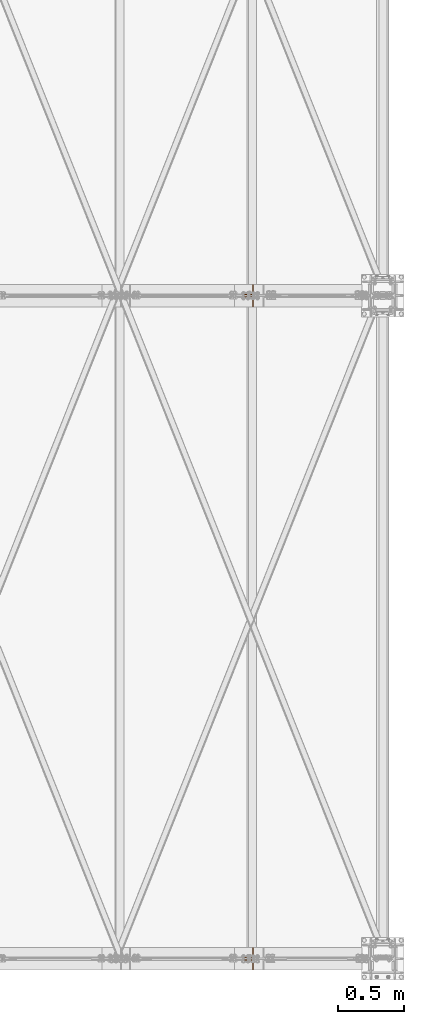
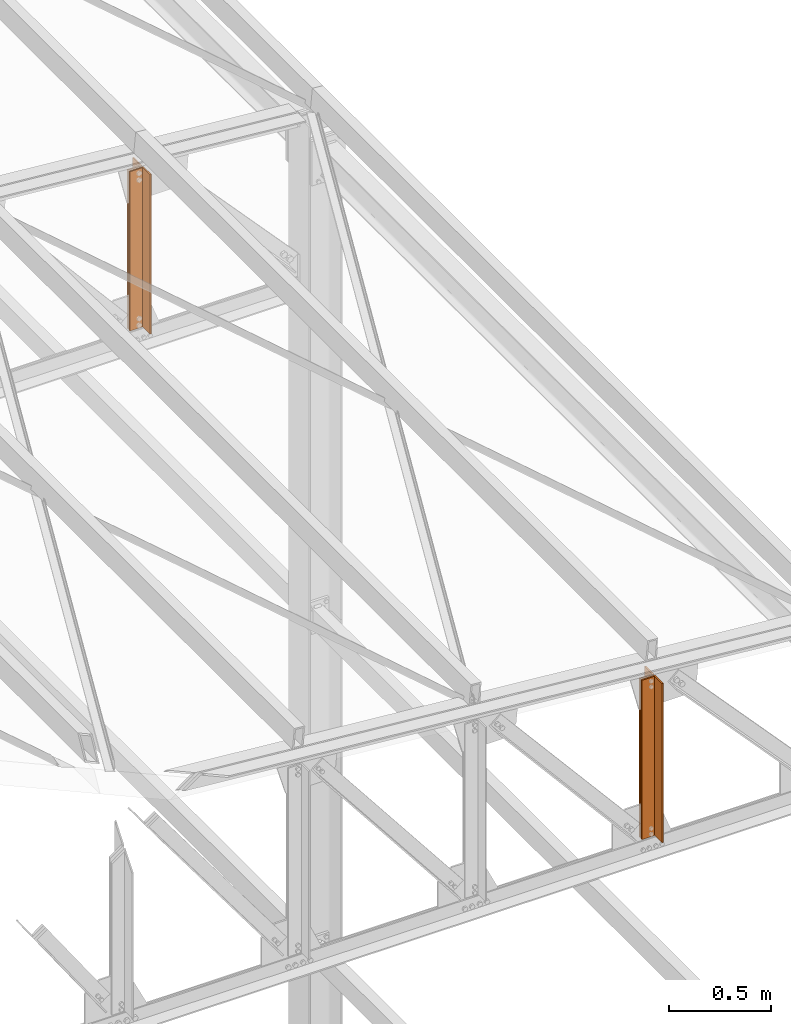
# One storey, part 247 of 251: 4 proxies.
"""IFC4 building model written with IfcOpenShell, lengths in metres."""

import ifcopenshell
import ifcopenshell.guid

model = None  # the IFC model being written
_history = None  # IfcOwnerHistory: only IFC2X3 demands one
_inside = {}  # id of a spatial element -> (the spatial element, [elements in it])
_under = {}  # id of a project, library or spatial element -> (it, [spatial elements below it])
_declared = {}  # id of a project -> (the project, [libraries it declares])
_typed = {}  # id of a type object -> (the type object, [elements of that type])
_made_of = {}  # id of a material, layer set ... -> (it, [elements and type objects made of it])


def new_model(schema):
    """Start an empty IFC model of exactly this schema.

    Asked for "IFC4X3", IfcOpenShell would pick the latest addendum, in which some entities
    have other attributes; the version numbers below select the first issue.
    IFC2X3 requires an IfcOwnerHistory on every rooted entity: one is made here for all.
    """
    global model, _history
    if schema == "IFC4X3":
        model = ifcopenshell.file(schema_version=(4, 3, 0, 0))
    else:
        model = ifcopenshell.file(schema=schema)
    _inside.clear()
    _under.clear()
    _declared.clear()
    _typed.clear()
    _made_of.clear()
    _history = None
    if model.schema == "IFC2X3":
        org = make("IfcOrganization", Name="unknown")
        user = make(
            "IfcPersonAndOrganization",
            ThePerson=make("IfcPerson", FamilyName="unknown"),
            TheOrganization=org,
        )
        app = make(
            "IfcApplication",
            ApplicationDeveloper=org,
            Version="unknown",
            ApplicationFullName="unknown",
            ApplicationIdentifier="unknown",
        )
        _history = make(
            "IfcOwnerHistory",
            OwningUser=user,
            OwningApplication=app,
            ChangeAction="ADDED",
            CreationDate=0,
        )
    return model


def make(cls, **values):
    """One entity of the class cls with the attributes given. An attribute that is None is left unset."""
    return model.create_entity(
        cls, **{name: value for name, value in values.items() if value is not None}
    )


def rooted(cls, **values):
    """An entity with a GlobalId (a new one), such as an element, a storey or a relation."""
    return make(cls, GlobalId=ifcopenshell.guid.new(), OwnerHistory=_history, **values)


def si_unit(unit_type, name, prefix=None):
    """IfcSIUnit, for example si_unit("LENGTHUNIT", "METRE", prefix="MILLI")."""
    return make("IfcSIUnit", UnitType=unit_type, Prefix=prefix, Name=name)


def assignment(units):
    """IfcUnitAssignment: the units of a project."""
    return None if units is None else make("IfcUnitAssignment", Units=units)


def point(xyz):
    """IfcCartesianPoint."""
    return None if xyz is None else make("IfcCartesianPoint", Coordinates=xyz)


def direction(xyz):
    """IfcDirection."""
    return None if xyz is None else make("IfcDirection", DirectionRatios=xyz)


def frame(location, z_axis=None, x_axis=None):
    """IfcAxis2Placement3D, a coordinate frame: its origin and axes. An axis left out is left unset."""
    return make(
        "IfcAxis2Placement3D",
        Location=point(location),
        Axis=direction(z_axis),
        RefDirection=direction(x_axis),
    )


def frame_2d(location, x_axis=None):
    """IfcAxis2Placement2D, a coordinate frame in the plane: its origin and x axis."""
    return make(
        "IfcAxis2Placement2D", Location=point(location), RefDirection=direction(x_axis)
    )


def origin_with_axes():
    """The frame at (0, 0, 0) with the z axis (0, 0, 1) and the x axis (1, 0, 0) written out."""
    return frame((0.0, 0.0, 0.0), z_axis=(0.0, 0.0, 1.0), x_axis=(1.0, 0.0, 0.0))


def origin_2d_with_axis():
    """The frame at (0, 0) in the plane with the x axis (1, 0) written out."""
    return frame_2d((0.0, 0.0), x_axis=(1.0, 0.0))


def place(relative_to, where):
    """IfcLocalPlacement: puts the frame where relative to a parent placement (None: the world)."""
    return make(
        "IfcLocalPlacement", PlacementRelTo=relative_to, RelativePlacement=where
    )


def context(
    kind, dimensions, precision=None, world=None, true_north=None, identifier=None
):
    """IfcGeometricRepresentationContext, for example the 3D "Model" context."""
    return make(
        "IfcGeometricRepresentationContext",
        ContextIdentifier=identifier,
        ContextType=kind,
        CoordinateSpaceDimension=dimensions,
        Precision=precision,
        WorldCoordinateSystem=world,
        TrueNorth=true_north,
    )


def project(units=None, contexts=None):
    """IfcProject with its units and contexts."""
    return rooted(
        "IfcProject",
        Name="project",
        RepresentationContexts=contexts,
        UnitsInContext=assignment(units),
    )


def spatial(cls, under=None, at=None, **own):
    """A site, building, storey or space (cls), placed at a placement, below another one or the project."""
    s = rooted(cls, ObjectPlacement=at, **own)
    if under is not None:
        _under.setdefault(under.id(), (under, []))[1].append(s)
    return s


def polyline(points):
    """IfcPolyline through the points."""
    return make("IfcPolyline", Points=[point(p) for p in points])


def profile(cls, at=None, kind="AREA", **sizes):
    """A parametric profile (cls). Its sizes go by their IFC names, for example OverallWidth=200.0."""
    return make(cls, ProfileType=kind, Position=at, **sizes)


def i_section(**sizes):
    """IfcIShapeProfileDef."""
    return profile("IfcIShapeProfileDef", **sizes)


def outline(outer, holes=None, kind="AREA"):
    """IfcArbitraryClosedProfileDef: a profile drawn as a closed curve; with holes, ...WithVoids."""
    if holes is None:
        return make("IfcArbitraryClosedProfileDef", ProfileType=kind, OuterCurve=outer)
    return make(
        "IfcArbitraryProfileDefWithVoids",
        ProfileType=kind,
        OuterCurve=outer,
        InnerCurves=holes,
    )


def extrude(swept, where, along, depth):
    """IfcExtrudedAreaSolid: the profile swept, set in the frame where, extruded along a direction by depth."""
    return make(
        "IfcExtrudedAreaSolid",
        SweptArea=swept,
        Position=where,
        ExtrudedDirection=direction(along),
        Depth=depth,
    )


def shape(context_of_items, identifier, shape_type, items):
    """IfcShapeRepresentation: the items that make up one representation, for example the "Body"."""
    return make(
        "IfcShapeRepresentation",
        ContextOfItems=context_of_items,
        RepresentationIdentifier=identifier,
        RepresentationType=shape_type,
        Items=items,
    )


def material(Name=None, Category=None):
    """IfcMaterial."""
    return make("IfcMaterial", Name=Name, Category=Category)


def material_profile(
    of_material, cross_section, Name=None, Category=None, Priority=None
):
    """IfcMaterialProfile: a cross section and its material."""
    return make(
        "IfcMaterialProfile",
        Name=Name,
        Material=of_material,
        Profile=cross_section,
        Priority=Priority,
        Category=Category,
    )


def profile_set(profiles, Name=None, composite=None):
    """IfcMaterialProfileSet."""
    return make(
        "IfcMaterialProfileSet",
        Name=Name,
        MaterialProfiles=profiles,
        CompositeProfile=composite,
    )


def profile_usage(for_profile_set, cardinal=None, extent=None):
    """IfcMaterialProfileSetUsage: how a profile set lies along its element."""
    return make(
        "IfcMaterialProfileSetUsage",
        ForProfileSet=for_profile_set,
        CardinalPoint=cardinal,
        ReferenceExtent=extent,
    )


def made_of(thing, what):
    """Note that an element or type object is made of a material, layer set ...; save() writes the relation."""
    if what is not None:
        _made_of.setdefault(what.id(), (what, []))[1].append(thing)
    return thing


def type_object(cls, material=None, **own):
    """A type object (cls), such as IfcWallType, which elements share."""
    return made_of(rooted(cls, **own), material)


def element(
    cls,
    number,
    at=None,
    inside=None,
    cuts=None,
    type_object=None,
    material=None,
    context=None,
    identifier="Body",
    shape_type=None,
    held_by="IfcProductDefinitionShape",
    body=None,
    shapes=None,
    **own,
):
    """One element of the class cls, such as IfcWall. Its Tag is "e" and its number.

    at: its placement. inside: the storey or other place that contains it. cuts: it is an
    opening in that element (IfcRelVoidsElement). A single representation is given by context,
    identifier, shape_type and body (its items); several are given by shapes. held_by: the class
    of the entity that holds the representations. save() writes the other relations.
    """
    e = rooted(cls, Tag="e%d" % number, ObjectPlacement=at, **own)
    if body is not None:
        shapes = [shape(context, identifier, shape_type, body)]
    if shapes is not None:
        e.Representation = make(held_by, Representations=shapes)
    if inside is not None:
        _inside.setdefault(inside.id(), (inside, []))[1].append(e)
    if cuts is not None:
        rooted(
            "IfcRelVoidsElement", RelatingBuildingElement=cuts, RelatedOpeningElement=e
        )
    if type_object is not None:
        _typed.setdefault(type_object.id(), (type_object, []))[1].append(e)
    return made_of(e, material)


def aggregate(whole, parts):
    """IfcRelAggregates: a whole, such as a stair, and the parts it consists of."""
    return rooted("IfcRelAggregates", RelatingObject=whole, RelatedObjects=parts)


def save(model, path):
    """Write the relations noted so far, then the file.

    IfcRelAggregates (storeys below a building ...), IfcRelContainedInSpatialStructure (elements
    in a storey), IfcRelDefinesByType, IfcRelAssociatesMaterial and IfcRelDeclares: one each for
    every whole, place, type object, material and project.
    """
    for whole, parts in _under.values():
        aggregate(whole, parts)
    for where, things in _inside.values():
        rooted(
            "IfcRelContainedInSpatialStructure",
            RelatedElements=things,
            RelatingStructure=where,
        )
    for kind, things in _typed.values():
        rooted("IfcRelDefinesByType", RelatedObjects=things, RelatingType=kind)
    for what, things in _made_of.values():
        rooted("IfcRelAssociatesMaterial", RelatedObjects=things, RelatingMaterial=what)
    for by, libraries in _declared.values():
        rooted("IfcRelDeclares", RelatingContext=by, RelatedDefinitions=libraries)
    model.write(path)


model = new_model("IFC4")

# Units and contexts
model_context = context("Model", 3, precision=1e-05, world=origin_with_axes())
ifc_project = project(units=[si_unit("LENGTHUNIT", "METRE"), si_unit("AREAUNIT", "SQUARE_METRE"), si_unit("VOLUMEUNIT", "CUBIC_METRE"), si_unit("MASSUNIT", "GRAM", prefix="KILO"), si_unit("TIMEUNIT", "SECOND"), si_unit("PLANEANGLEUNIT", "RADIAN"), si_unit("SOLIDANGLEUNIT", "STERADIAN"), si_unit("THERMODYNAMICTEMPERATUREUNIT", "DEGREE_CELSIUS")], contexts=[model_context])

# Site, building, storey
placement_1 = place(None, origin_with_axes())
site = spatial("IfcSite", under=ifc_project, at=placement_1, Name="Italia", CompositionType="ELEMENT")
building = spatial("IfcBuilding", under=site, at=placement_1, Name="Deposito", CompositionType="ELEMENT")
storey = spatial("IfcBuildingStorey", under=building, at=placement_1, Name="Storey 0", CompositionType="ELEMENT", Elevation=0.0)

# Proxies
ifc_material = material(Name="Acciaio", Category="Acciaio")
ifc_material_profile = material_profile(ifc_material, i_section(OverallWidth=0.2, OverallDepth=0.19, WebThickness=0.006, FlangeThickness=0.01, FilletRadius=0.018, at=origin_2d_with_axis()), Name="7 PILASTRO HEA200")
ifc_profile_set = profile_set([ifc_material_profile])
ifc_profile_usage_1 = profile_usage(ifc_profile_set, cardinal=1)
member_type_1 = type_object("IfcMemberType", Name="5 2L80x8", PredefinedType="MEMBER", material=ifc_profile_usage_1)
placement_2 = place(placement_1, origin_with_axes())
proxy_1_placement = place(placement_2, origin_with_axes())
element("IfcBuildingElementProxy", 1, at=proxy_1_placement, inside=storey, type_object=member_type_1, Name="13", context=model_context, shape_type="SweptSolid", body=[
    extrude(outline(polyline([(0.0, 0.0), (-0.08, 0.0), (-0.08, 0.00799942), (-0.008, 0.00799942), (-0.008, 0.0799999), (0.0, 0.0799999), (0.0, 0.0)])), frame((19.0263, -0.005, 5.06753), z_axis=(0.0, 0.0, 1.0), x_axis=(0.0, 1.0, 0.0)), (0.0, 0.0, 1.0), 0.949862),
])
ifc_profile_usage_2 = profile_usage(ifc_profile_set, cardinal=1)
member_type_2 = type_object("IfcMemberType", Name="5 2L80x8", PredefinedType="MEMBER", material=ifc_profile_usage_2)
proxy_2_placement = place(placement_2, origin_with_axes())
element("IfcBuildingElementProxy", 2, at=proxy_2_placement, inside=storey, type_object=member_type_2, Name="13", context=model_context, shape_type="SweptSolid", body=[
    extrude(outline(polyline([(0.0, 0.0), (0.008, 0.0), (0.008, -0.0720005), (0.08, -0.0720005), (0.08, -0.0799999), (0.0, -0.0799999), (0.0, 0.0)])), frame((18.9463, 0.005, 5.06753), z_axis=(0.0, 0.0, 1.0), x_axis=(0.0, 1.0, 0.0)), (0.0, 0.0, 1.0), 0.949862),
])
ifc_profile_usage_3 = profile_usage(ifc_profile_set, cardinal=1)
member_type_3 = type_object("IfcMemberType", Name="5 2L80x8", PredefinedType="MEMBER", material=ifc_profile_usage_3)
proxy_3_placement = place(placement_2, origin_with_axes())
element("IfcBuildingElementProxy", 3, at=proxy_3_placement, inside=storey, type_object=member_type_3, Name="31", context=model_context, shape_type="SweptSolid", body=[
    extrude(outline(polyline([(0.0, 0.0), (-0.0799999, 0.0), (-0.0799999, 0.00799942), (-0.0079999, 0.00799942), (-0.0079999, 0.0799999), (0.0, 0.0799999), (0.0, 0.0)])), frame((19.0263, 4.995, 5.06753), z_axis=(0.0, 0.0, 1.0), x_axis=(0.0, 1.0, 0.0)), (0.0, 0.0, 1.0), 0.949862),
])
ifc_profile_usage_4 = profile_usage(ifc_profile_set, cardinal=1)
member_type_4 = type_object("IfcMemberType", Name="5 2L80x8", PredefinedType="MEMBER", material=ifc_profile_usage_4)
proxy_4_placement = place(placement_2, origin_with_axes())
element("IfcBuildingElementProxy", 4, at=proxy_4_placement, inside=storey, type_object=member_type_4, Name="31", context=model_context, shape_type="SweptSolid", body=[
    extrude(outline(polyline([(0.0, 0.0), (0.0079999, 0.0), (0.0079999, -0.0720005), (0.0799999, -0.0720005), (0.0799999, -0.0799999), (0.0, -0.0799999), (0.0, 0.0)])), frame((18.9463, 5.005, 5.06753), z_axis=(0.0, 0.0, 1.0), x_axis=(0.0, 1.0, 0.0)), (0.0, 0.0, 1.0), 0.949862),
])

save(model, "model.ifc")
